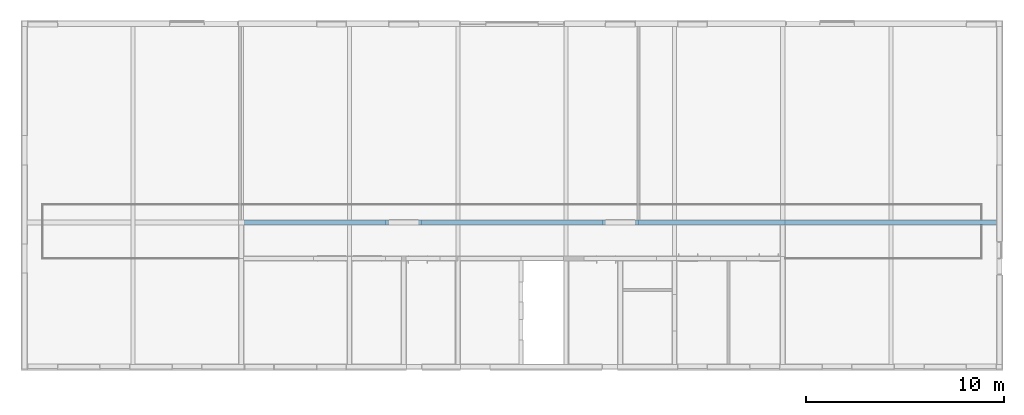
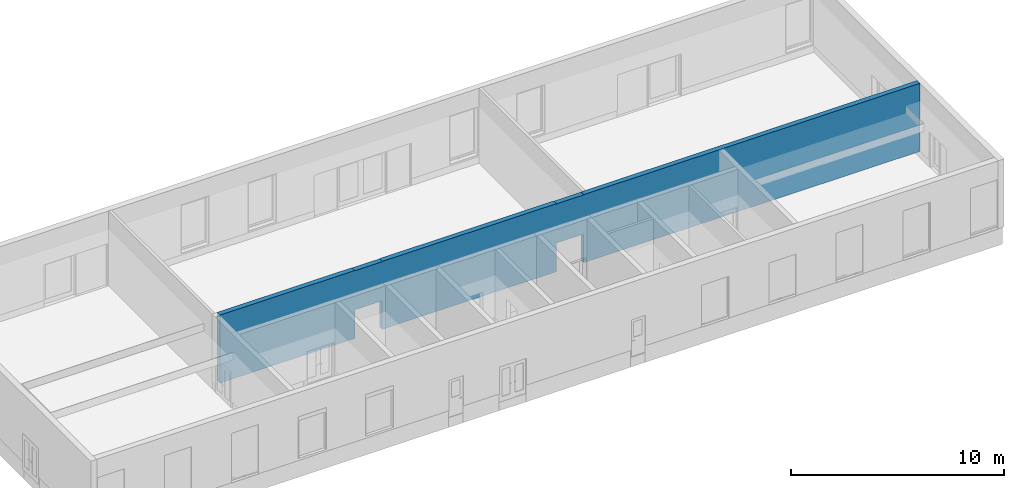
# One storey, part 10 of 22: 1 wall, 4 openings.
"""IFC4X3 building model written with IfcOpenShell, lengths in millimetres."""

import ifcopenshell
import ifcopenshell.guid

model = None  # the IFC model being written
_history = None  # IfcOwnerHistory: only IFC2X3 demands one
_inside = {}  # id of a spatial element -> (the spatial element, [elements in it])
_under = {}  # id of a project, library or spatial element -> (it, [spatial elements below it])
_declared = {}  # id of a project -> (the project, [libraries it declares])
_typed = {}  # id of a type object -> (the type object, [elements of that type])
_made_of = {}  # id of a material, layer set ... -> (it, [elements and type objects made of it])


def new_model(schema):
    """Start an empty IFC model of exactly this schema.

    Asked for "IFC4X3", IfcOpenShell would pick the latest addendum, in which some entities
    have other attributes; the version numbers below select the first issue.
    IFC2X3 requires an IfcOwnerHistory on every rooted entity: one is made here for all.
    """
    global model, _history
    if schema == "IFC4X3":
        model = ifcopenshell.file(schema_version=(4, 3, 0, 0))
    else:
        model = ifcopenshell.file(schema=schema)
    _inside.clear()
    _under.clear()
    _declared.clear()
    _typed.clear()
    _made_of.clear()
    _history = None
    if model.schema == "IFC2X3":
        org = make("IfcOrganization", Name="unknown")
        user = make(
            "IfcPersonAndOrganization",
            ThePerson=make("IfcPerson", FamilyName="unknown"),
            TheOrganization=org,
        )
        app = make(
            "IfcApplication",
            ApplicationDeveloper=org,
            Version="unknown",
            ApplicationFullName="unknown",
            ApplicationIdentifier="unknown",
        )
        _history = make(
            "IfcOwnerHistory",
            OwningUser=user,
            OwningApplication=app,
            ChangeAction="ADDED",
            CreationDate=0,
        )
    return model


def make(cls, **values):
    """One entity of the class cls with the attributes given. An attribute that is None is left unset."""
    return model.create_entity(
        cls, **{name: value for name, value in values.items() if value is not None}
    )


def entity(cls, *values):
    """Any entity or typed value of the class cls, its attributes in the order of the schema. None: left unset."""
    e = model.create_entity(cls)
    for i, value in enumerate(values):
        if value is not None:
            e[i] = value
    return e


def rooted(cls, **values):
    """An entity with a GlobalId (a new one), such as an element, a storey or a relation."""
    return make(cls, GlobalId=ifcopenshell.guid.new(), OwnerHistory=_history, **values)


def si_unit(unit_type, name, prefix=None):
    """IfcSIUnit, for example si_unit("LENGTHUNIT", "METRE", prefix="MILLI")."""
    return make("IfcSIUnit", UnitType=unit_type, Prefix=prefix, Name=name)


def converted_unit(unit_type, name, factor, base, dimensions=None, offset=None):
    """IfcConversionBasedUnit, such as the inch: factor (a typed value) times the base unit."""
    return make(
        "IfcConversionBasedUnit"
        if offset is None
        else "IfcConversionBasedUnitWithOffset",
        ConversionOffset=offset,
        Dimensions=None
        if dimensions is None
        else entity("IfcDimensionalExponents", *dimensions),
        UnitType=unit_type,
        Name=name,
        ConversionFactor=make(
            "IfcMeasureWithUnit", ValueComponent=factor, UnitComponent=base
        ),
    )


def derived_unit(unit_type, elements):
    """IfcDerivedUnit: a product of units, each with its exponent."""
    return make(
        "IfcDerivedUnit",
        Elements=[
            make("IfcDerivedUnitElement", Unit=unit, Exponent=power)
            for unit, power in elements
        ],
        UnitType=unit_type,
    )


def assignment(units):
    """IfcUnitAssignment: the units of a project."""
    return None if units is None else make("IfcUnitAssignment", Units=units)


def point(xyz):
    """IfcCartesianPoint."""
    return None if xyz is None else make("IfcCartesianPoint", Coordinates=xyz)


def direction(xyz):
    """IfcDirection."""
    return None if xyz is None else make("IfcDirection", DirectionRatios=xyz)


def frame(location, z_axis=None, x_axis=None):
    """IfcAxis2Placement3D, a coordinate frame: its origin and axes. An axis left out is left unset."""
    return make(
        "IfcAxis2Placement3D",
        Location=point(location),
        Axis=direction(z_axis),
        RefDirection=direction(x_axis),
    )


def frame_2d(location, x_axis=None):
    """IfcAxis2Placement2D, a coordinate frame in the plane: its origin and x axis."""
    return make(
        "IfcAxis2Placement2D", Location=point(location), RefDirection=direction(x_axis)
    )


def origin():
    """The frame at (0, 0, 0) with its axes left unset."""
    return frame((0.0, 0.0, 0.0))


def place(relative_to, where):
    """IfcLocalPlacement: puts the frame where relative to a parent placement (None: the world)."""
    return make(
        "IfcLocalPlacement", PlacementRelTo=relative_to, RelativePlacement=where
    )


def context(
    kind, dimensions, precision=None, world=None, true_north=None, identifier=None
):
    """IfcGeometricRepresentationContext, for example the 3D "Model" context."""
    return make(
        "IfcGeometricRepresentationContext",
        ContextIdentifier=identifier,
        ContextType=kind,
        CoordinateSpaceDimension=dimensions,
        Precision=precision,
        WorldCoordinateSystem=world,
        TrueNorth=true_north,
    )


def subcontext(parent, identifier, kind, view, scale=None):
    """IfcGeometricRepresentationSubContext, for example "Body" below "Model"."""
    return make(
        "IfcGeometricRepresentationSubContext",
        ContextIdentifier=identifier,
        ContextType=kind,
        ParentContext=parent,
        TargetScale=scale,
        TargetView=view,
    )


def project(units=None, contexts=None):
    """IfcProject with its units and contexts."""
    return rooted(
        "IfcProject",
        Name="project",
        RepresentationContexts=contexts,
        UnitsInContext=assignment(units),
    )


def spatial(cls, under=None, at=None, **own):
    """A site, building, storey or space (cls), placed at a placement, below another one or the project."""
    s = rooted(cls, ObjectPlacement=at, **own)
    if under is not None:
        _under.setdefault(under.id(), (under, []))[1].append(s)
    return s


def profile(cls, at=None, kind="AREA", **sizes):
    """A parametric profile (cls). Its sizes go by their IFC names, for example OverallWidth=200.0."""
    return make(cls, ProfileType=kind, Position=at, **sizes)


def rectangle(**sizes):
    """IfcRectangleProfileDef."""
    return profile("IfcRectangleProfileDef", **sizes)


def extrude(swept, where, along, depth):
    """IfcExtrudedAreaSolid: the profile swept, set in the frame where, extruded along a direction by depth."""
    return make(
        "IfcExtrudedAreaSolid",
        SweptArea=swept,
        Position=where,
        ExtrudedDirection=direction(along),
        Depth=depth,
    )


def shape(context_of_items, identifier, shape_type, items):
    """IfcShapeRepresentation: the items that make up one representation, for example the "Body"."""
    return make(
        "IfcShapeRepresentation",
        ContextOfItems=context_of_items,
        RepresentationIdentifier=identifier,
        RepresentationType=shape_type,
        Items=items,
    )


def material(Name=None, Category=None):
    """IfcMaterial."""
    return make("IfcMaterial", Name=Name, Category=Category)


def layer(
    of_material, thickness, ventilated=None, Name=None, Category=None, Priority=None
):
    """IfcMaterialLayer: one layer of a wall or slab, of a material (None: an air gap)."""
    return make(
        "IfcMaterialLayer",
        Material=of_material,
        LayerThickness=thickness,
        IsVentilated=ventilated,
        Name=Name,
        Category=Category,
        Priority=Priority,
    )


def layer_set(layers, Name=None):
    """IfcMaterialLayerSet."""
    return make("IfcMaterialLayerSet", MaterialLayers=layers, LayerSetName=Name)


def made_of(thing, what):
    """Note that an element or type object is made of a material, layer set ...; save() writes the relation."""
    if what is not None:
        _made_of.setdefault(what.id(), (what, []))[1].append(thing)
    return thing


def type_object(cls, material=None, **own):
    """A type object (cls), such as IfcWallType, which elements share."""
    return made_of(rooted(cls, **own), material)


def element(
    cls,
    number,
    at=None,
    inside=None,
    cuts=None,
    type_object=None,
    material=None,
    context=None,
    identifier="Body",
    shape_type=None,
    held_by="IfcProductDefinitionShape",
    body=None,
    shapes=None,
    **own,
):
    """One element of the class cls, such as IfcWall. Its Tag is "e" and its number.

    at: its placement. inside: the storey or other place that contains it. cuts: it is an
    opening in that element (IfcRelVoidsElement). A single representation is given by context,
    identifier, shape_type and body (its items); several are given by shapes. held_by: the class
    of the entity that holds the representations. save() writes the other relations.
    """
    e = rooted(cls, Tag="e%d" % number, ObjectPlacement=at, **own)
    if body is not None:
        shapes = [shape(context, identifier, shape_type, body)]
    if shapes is not None:
        e.Representation = make(held_by, Representations=shapes)
    if inside is not None:
        _inside.setdefault(inside.id(), (inside, []))[1].append(e)
    if cuts is not None:
        rooted(
            "IfcRelVoidsElement", RelatingBuildingElement=cuts, RelatedOpeningElement=e
        )
    if type_object is not None:
        _typed.setdefault(type_object.id(), (type_object, []))[1].append(e)
    return made_of(e, material)


def aggregate(whole, parts):
    """IfcRelAggregates: a whole, such as a stair, and the parts it consists of."""
    return rooted("IfcRelAggregates", RelatingObject=whole, RelatedObjects=parts)


def save(model, path):
    """Write the relations noted so far, then the file.

    IfcRelAggregates (storeys below a building ...), IfcRelContainedInSpatialStructure (elements
    in a storey), IfcRelDefinesByType, IfcRelAssociatesMaterial and IfcRelDeclares: one each for
    every whole, place, type object, material and project.
    """
    for whole, parts in _under.values():
        aggregate(whole, parts)
    for where, things in _inside.values():
        rooted(
            "IfcRelContainedInSpatialStructure",
            RelatedElements=things,
            RelatingStructure=where,
        )
    for kind, things in _typed.values():
        rooted("IfcRelDefinesByType", RelatedObjects=things, RelatingType=kind)
    for what, things in _made_of.values():
        rooted("IfcRelAssociatesMaterial", RelatedObjects=things, RelatingMaterial=what)
    for by, libraries in _declared.values():
        rooted("IfcRelDeclares", RelatingContext=by, RelatedDefinitions=libraries)
    model.write(path)


model = new_model("IFC4X3")

# Units and contexts
model_context = context("Model", 3, precision=0.01, world=origin(), true_north=direction((6.12303176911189e-17, 1.0)))
body_context = subcontext(model_context, "Body", "Model", "MODEL_VIEW")
ifc_project = project(units=[si_unit("LENGTHUNIT", "METRE", prefix="MILLI"), si_unit("AREAUNIT", "SQUARE_METRE"), si_unit("VOLUMEUNIT", "CUBIC_METRE"), converted_unit("PLANEANGLEUNIT", "DEGREE", entity("IfcPlaneAngleMeasure", 0.0174532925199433), si_unit("PLANEANGLEUNIT", "RADIAN"), dimensions=[0, 0, 0, 0, 0, 0, 0]), si_unit("MASSUNIT", "GRAM", prefix="KILO"), derived_unit("MASSDENSITYUNIT", [(si_unit("MASSUNIT", "GRAM", prefix="KILO"), 1), (si_unit("LENGTHUNIT", "METRE"), -3)]), derived_unit("IONCONCENTRATIONUNIT", [(si_unit("MASSUNIT", "GRAM", prefix="KILO"), 1), (si_unit("LENGTHUNIT", "METRE"), -3)]), derived_unit("MOMENTOFINERTIAUNIT", [(si_unit("LENGTHUNIT", "METRE"), 4)]), si_unit("TIMEUNIT", "SECOND"), si_unit("FREQUENCYUNIT", "HERTZ"), si_unit("THERMODYNAMICTEMPERATUREUNIT", "DEGREE_CELSIUS"), derived_unit("THERMALTRANSMITTANCEUNIT", [(si_unit("MASSUNIT", "GRAM", prefix="KILO"), 1), (si_unit("THERMODYNAMICTEMPERATUREUNIT", "KELVIN"), -1), (si_unit("TIMEUNIT", "SECOND"), -3)]), derived_unit("THERMALCONDUCTANCEUNIT", [(si_unit("MASSUNIT", "GRAM", prefix="KILO"), 1), (si_unit("THERMODYNAMICTEMPERATUREUNIT", "KELVIN"), -1), (si_unit("TIMEUNIT", "SECOND"), -3), (si_unit("LENGTHUNIT", "METRE"), 1)]), derived_unit("VOLUMETRICFLOWRATEUNIT", [(si_unit("LENGTHUNIT", "METRE", prefix="DECI"), 3), (si_unit("TIMEUNIT", "SECOND"), -1)]), derived_unit("MASSFLOWRATEUNIT", [(si_unit("MASSUNIT", "GRAM", prefix="KILO"), 1), (si_unit("TIMEUNIT", "SECOND"), -1)]), derived_unit("ROTATIONALFREQUENCYUNIT", [(si_unit("TIMEUNIT", "SECOND"), -1)]), si_unit("ELECTRICCURRENTUNIT", "AMPERE"), si_unit("ELECTRICVOLTAGEUNIT", "VOLT"), si_unit("POWERUNIT", "WATT"), si_unit("FORCEUNIT", "NEWTON", prefix="KILO"), si_unit("ILLUMINANCEUNIT", "LUX"), si_unit("LUMINOUSFLUXUNIT", "LUMEN"), si_unit("LUMINOUSINTENSITYUNIT", "CANDELA"), si_unit("ENERGYUNIT", "JOULE"), derived_unit("USERDEFINED", [(si_unit("MASSUNIT", "GRAM", prefix="KILO"), -1), (si_unit("LENGTHUNIT", "METRE"), -2), (si_unit("TIMEUNIT", "SECOND"), 3), (si_unit("LUMINOUSFLUXUNIT", "LUMEN"), 1)]), derived_unit("USERDEFINED", [(si_unit("MASSUNIT", "GRAM", prefix="KILO"), 1), (si_unit("TIMEUNIT", "SECOND"), -3), (si_unit("LENGTHUNIT", "METRE"), 3), (si_unit("ELECTRICCURRENTUNIT", "AMPERE"), -2)]), derived_unit("SOUNDPOWERUNIT", [(si_unit("MASSUNIT", "GRAM", prefix="KILO"), 1), (si_unit("TIMEUNIT", "SECOND"), -3), (si_unit("LENGTHUNIT", "METRE"), 2)]), derived_unit("SOUNDPRESSUREUNIT", [(si_unit("MASSUNIT", "GRAM", prefix="KILO"), 1), (si_unit("LENGTHUNIT", "METRE"), -1), (si_unit("TIMEUNIT", "SECOND"), -2)]), derived_unit("LINEARVELOCITYUNIT", [(si_unit("LENGTHUNIT", "METRE"), 1), (si_unit("TIMEUNIT", "SECOND"), -1)]), si_unit("PRESSUREUNIT", "PASCAL"), derived_unit("USERDEFINED", [(si_unit("MASSUNIT", "GRAM", prefix="KILO"), 1), (si_unit("LENGTHUNIT", "METRE"), -2), (si_unit("TIMEUNIT", "SECOND"), -2)]), derived_unit("LINEARFORCEUNIT", [(si_unit("MASSUNIT", "GRAM", prefix="KILO"), 1), (si_unit("TIMEUNIT", "SECOND"), -2)]), derived_unit("PLANARFORCEUNIT", [(si_unit("MASSUNIT", "GRAM", prefix="KILO"), 1), (si_unit("LENGTHUNIT", "METRE"), -1), (si_unit("TIMEUNIT", "SECOND"), -2)]), derived_unit("SPECIFICHEATCAPACITYUNIT", [(si_unit("THERMODYNAMICTEMPERATUREUNIT", "KELVIN"), -1), (si_unit("LENGTHUNIT", "METRE"), 2), (si_unit("TIMEUNIT", "SECOND"), -2)]), derived_unit("HEATFLUXDENSITYUNIT", [(si_unit("MASSUNIT", "GRAM", prefix="KILO"), 1), (si_unit("TIMEUNIT", "SECOND"), -3)]), derived_unit("HEATINGVALUEUNIT", [(si_unit("LENGTHUNIT", "METRE"), 2), (si_unit("TIMEUNIT", "SECOND"), -2)]), derived_unit("VAPORPERMEABILITYUNIT", [(si_unit("LENGTHUNIT", "METRE"), -1), (si_unit("TIMEUNIT", "SECOND"), 1)]), derived_unit("DYNAMICVISCOSITYUNIT", [(si_unit("MASSUNIT", "GRAM", prefix="KILO"), 1), (si_unit("TIMEUNIT", "SECOND"), -1), (si_unit("LENGTHUNIT", "METRE"), -1)]), derived_unit("THERMALEXPANSIONCOEFFICIENTUNIT", [(si_unit("THERMODYNAMICTEMPERATUREUNIT", "KELVIN"), -1)]), derived_unit("MODULUSOFELASTICITYUNIT", [(si_unit("MASSUNIT", "GRAM", prefix="KILO"), 1), (si_unit("LENGTHUNIT", "METRE"), -1), (si_unit("TIMEUNIT", "SECOND"), -2)]), derived_unit("ISOTHERMALMOISTURECAPACITYUNIT", [(si_unit("MASSUNIT", "GRAM", prefix="KILO"), -1), (si_unit("LENGTHUNIT", "METRE"), 3)]), derived_unit("MOISTUREDIFFUSIVITYUNIT", [(si_unit("TIMEUNIT", "SECOND"), -1), (si_unit("LENGTHUNIT", "METRE"), 2)]), derived_unit("AREADENSITYUNIT", [(si_unit("MASSUNIT", "GRAM", prefix="KILO"), 1), (si_unit("LENGTHUNIT", "METRE"), 2)]), derived_unit("MASSPERLENGTHUNIT", [(si_unit("MASSUNIT", "GRAM", prefix="KILO"), 1), (si_unit("LENGTHUNIT", "METRE"), -1)]), derived_unit("THERMALRESISTANCEUNIT", [(si_unit("MASSUNIT", "GRAM", prefix="KILO"), -1), (si_unit("TIMEUNIT", "SECOND"), 3), (si_unit("THERMODYNAMICTEMPERATUREUNIT", "KELVIN"), 1)]), derived_unit("ACCELERATIONUNIT", [(si_unit("LENGTHUNIT", "METRE"), 1), (si_unit("TIMEUNIT", "SECOND"), -2)]), derived_unit("ANGULARVELOCITYUNIT", [(si_unit("TIMEUNIT", "SECOND"), -1), (si_unit("PLANEANGLEUNIT", "RADIAN"), 1)]), derived_unit("LINEARSTIFFNESSUNIT", [(si_unit("MASSUNIT", "GRAM", prefix="KILO"), 1), (si_unit("TIMEUNIT", "SECOND"), -2)]), derived_unit("WARPINGCONSTANTUNIT", [(si_unit("LENGTHUNIT", "METRE"), 6)]), derived_unit("LINEARMOMENTUNIT", [(si_unit("MASSUNIT", "GRAM", prefix="KILO"), 1), (si_unit("LENGTHUNIT", "METRE"), 1), (si_unit("TIMEUNIT", "SECOND"), -2)]), derived_unit("TORQUEUNIT", [(si_unit("MASSUNIT", "GRAM", prefix="KILO"), 1), (si_unit("LENGTHUNIT", "METRE"), 2), (si_unit("TIMEUNIT", "SECOND"), -2)])], contexts=[model_context])

# Site, building, storey
site_placement = place(None, origin())
site = spatial("IfcSite", under=ifc_project, at=site_placement, Name="Default", CompositionType="ELEMENT")
building_placement = place(site_placement, origin())
building = spatial("IfcBuilding", under=site, at=building_placement, Name="事務所ビル", CompositionType="ELEMENT")
storey_placement = place(building_placement, origin())
storey = spatial("IfcBuildingStorey", under=building, at=storey_placement, Name="1FL", CompositionType="ELEMENT", Elevation=0.0)

# Wall, openings
ifc_material_1 = material(Name="せっこうボード", Category="一般")
ifc_layer_1 = layer(ifc_material_1, 15.0, Name="せっこうボード", Category="一般")
ifc_material_2 = material(Name="合板", Category="一般")
ifc_layer_2 = layer(ifc_material_2, 12.0, Name="合板", Category="一般")
ifc_material_3 = material(Name="天然木材", Category="一般")
ifc_layer_3 = layer(ifc_material_3, 210.0, Name="天然木材", Category="一般")
ifc_layer_4 = layer(ifc_material_2, 12.0, Name="合板", Category="一般")
ifc_layer_5 = layer(ifc_material_1, 15.0, Name="せっこうボード", Category="一般")
ifc_layer_set = layer_set([ifc_layer_1, ifc_layer_2, ifc_layer_3, ifc_layer_4, ifc_layer_5], Name="標準壁:GB-R15_構造用合板12_木210_構造用合板12_GB-R15")
wall_type = type_object("IfcWallType", Name="標準壁:GB-R15_構造用合板12_木210_構造用合板12_GB-R15", PredefinedType="STANDARD", material=ifc_layer_set)
wall_placement = place(storey_placement, frame((11052.0, 7280.0, 400.0)))
wall = element("IfcWall", 1, at=wall_placement, inside=storey, type_object=wall_type, material=ifc_layer_set, Name="標準壁:GB-R15_構造用合板12_木210_構造用合板12_GB-R15", ObjectType="標準壁:GB-R15_構造用合板12_木210_構造用合板12_GB-R15", PredefinedType="NOTDEFINED", context=body_context, shape_type="SweptSolid", body=[
    extrude(rectangle(XDim=37941.0, YDim=264.000000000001, at=frame_2d((18970.5, -2.27373675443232e-13), x_axis=(-1.0, 0.0))), origin(), (0.0, 0.0, 1.0), 3900.0),
])
opening_1_placement = place(wall_placement, frame((-11052.0, -7280.0, 3900.0)))
element("IfcOpeningElement", 2, at=opening_1_placement, cuts=wall, Name="標準壁:GB-R15_構造用合板12_木210_構造用合板12_GB-R15", PredefinedType="OPENING", context=body_context, shape_type="SweptSolid", body=[
    extrude(rectangle(XDim=2055.00000000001, YDim=1480.0, at=frame_2d((0.0, 0.0), x_axis=(0.0, 1.0))), frame((30030.0, 5624.0, 1012.49999999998), z_axis=(0.0, 1.0, 0.0), x_axis=(1.0, 0.0, 0.0)), (0.0, 0.0, 1.0), 3048.0),
])
opening_2_placement = place(wall_placement, frame((-11052.0, -7280.0, 3900.0)))
element("IfcOpeningElement", 3, at=opening_2_placement, cuts=wall, Name="標準壁:GB-R15_構造用合板12_木210_構造用合板12_GB-R15", PredefinedType="OPENING", context=body_context, shape_type="SweptSolid", body=[
    extrude(rectangle(XDim=2055.00000000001, YDim=1480.0, at=frame_2d((0.0, 0.0), x_axis=(0.0, 1.0))), frame((19110.0, 5624.0, 1012.49999999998), z_axis=(0.0, 1.0, 0.0), x_axis=(1.0, 0.0, 0.0)), (0.0, 0.0, 1.0), 3048.0),
])
opening_3_placement = place(wall_placement, frame((7318.0, -132.0, -415.0)))
element("IfcOpeningElement", 4, at=opening_3_placement, cuts=wall, Name="鋼製_大枠_両開き_框:1400x2000:1", PredefinedType="OPENING", context=body_context, shape_type="SweptSolid", body=[
    extrude(rectangle(XDim=2055.00000000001, YDim=1480.0, at=frame_2d((1027.5, 740.0), x_axis=(-1.0, 0.0))), frame((0.0, 0.0, 0.0), z_axis=(0.0, 1.0, 0.0), x_axis=(0.0, 0.0, 1.0)), (0.0, 0.0, 1.0), 264.0),
])
opening_4_placement = place(wall_placement, frame((18238.0, -132.0, -415.0)))
element("IfcOpeningElement", 5, at=opening_4_placement, cuts=wall, Name="鋼製_大枠_両開き_框:1400x2000:1", PredefinedType="OPENING", context=body_context, shape_type="SweptSolid", body=[
    extrude(rectangle(XDim=2055.00000000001, YDim=1480.0, at=frame_2d((1027.5, 740.000000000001), x_axis=(-1.0, 0.0))), frame((0.0, 0.0, 0.0), z_axis=(0.0, 1.0, 0.0), x_axis=(0.0, 0.0, 1.0)), (0.0, 0.0, 1.0), 264.0),
])

save(model, "model.ifc")
